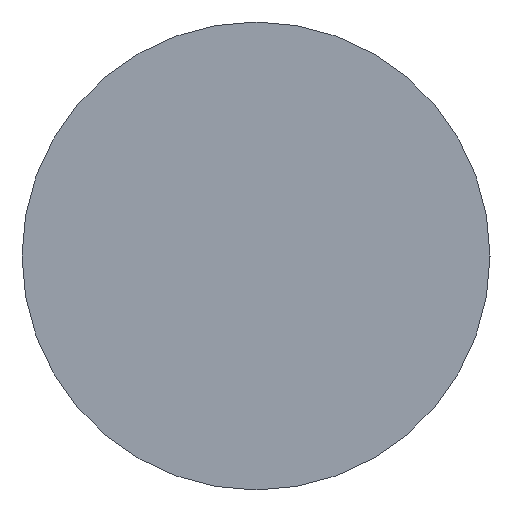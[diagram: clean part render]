
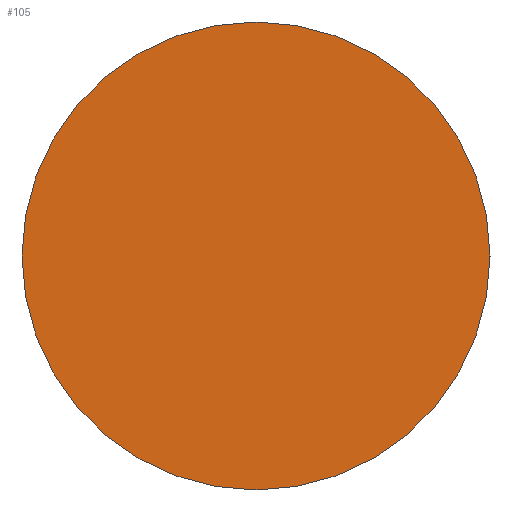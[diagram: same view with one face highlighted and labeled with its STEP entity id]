
A CAD part, left-side view. The second image highlights one B-rep face of the part: STEP entity #105.
In plain terms, the highlighted planar face has unit normal (-1, 0, 0).
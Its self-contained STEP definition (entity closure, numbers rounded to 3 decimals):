
#22 = VERTEX_POINT('',#23);
#23 = CARTESIAN_POINT('',(-18.,140.5,300.));
#32 = CYLINDRICAL_SURFACE('',#33,2.5);
#33 = AXIS2_PLACEMENT_3D('',#34,#35,#36);
#34 = CARTESIAN_POINT('',(-18.,138.,300.));
#35 = DIRECTION('',(-1.,-0.,-0.));
#36 = DIRECTION('',(0.,1.,0.));
#79 = EDGE_CURVE('',#22,#22,#80,.T.);
#80 = SURFACE_CURVE('',#81,(#86,#93),.PCURVE_S1.);
#81 = CIRCLE('',#82,2.5);
#82 = AXIS2_PLACEMENT_3D('',#83,#84,#85);
#83 = CARTESIAN_POINT('',(-18.,138.,300.));
#84 = DIRECTION('',(1.,0.,0.));
#85 = DIRECTION('',(0.,1.,0.));
#86 = PCURVE('',#32,#87);
#87 = DEFINITIONAL_REPRESENTATION('',(#88),#92);
#88 = LINE('',#89,#90);
#89 = CARTESIAN_POINT('',(-0.,0.));
#90 = VECTOR('',#91,1.);
#91 = DIRECTION('',(-1.,0.));
#92 = ( GEOMETRIC_REPRESENTATION_CONTEXT(2) 
PARAMETRIC_REPRESENTATION_CONTEXT() REPRESENTATION_CONTEXT('2D SPACE',''
  ) );
#93 = PCURVE('',#94,#99);
#94 = PLANE('',#95);
#95 = AXIS2_PLACEMENT_3D('',#96,#97,#98);
#96 = CARTESIAN_POINT('',(-18.,138.,300.));
#97 = DIRECTION('',(1.,0.,0.));
#98 = DIRECTION('',(-0.,0.,1.));
#99 = DEFINITIONAL_REPRESENTATION('',(#100),#104);
#100 = CIRCLE('',#101,2.5);
#101 = AXIS2_PLACEMENT_2D('',#102,#103);
#102 = CARTESIAN_POINT('',(0.,0.));
#103 = DIRECTION('',(0.,-1.));
#104 = ( GEOMETRIC_REPRESENTATION_CONTEXT(2) 
PARAMETRIC_REPRESENTATION_CONTEXT() REPRESENTATION_CONTEXT('2D SPACE',''
  ) );
#105 = ADVANCED_FACE('',(#106),#94,.F.);
#106 = FACE_BOUND('',#107,.F.);
#107 = EDGE_LOOP('',(#108));
#108 = ORIENTED_EDGE('',*,*,#79,.T.);
